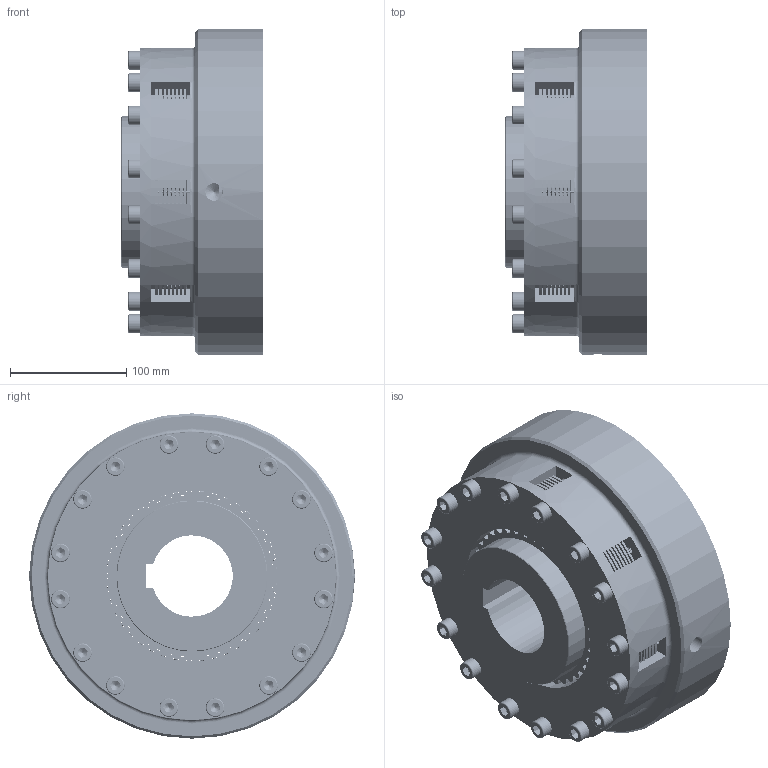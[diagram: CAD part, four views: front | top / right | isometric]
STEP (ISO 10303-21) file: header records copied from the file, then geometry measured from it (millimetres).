
FILE_DESCRIPTION(/* description */ (''),/* implementation_level */ '2;1');
FILE_NAME(/* name */ 'T:\INVENTOR\DISEGNI\03_Friz_Oleod_Pneum_Cil_Stat\03_40 FPL-N\03_40_010_01 FPL_N10\B\03_40_010_01 FPL-N10B-F70@STEP.stp',/* time_stamp */ '2020-02-26T12:07:59+01:00',/* author */ ('w.sartori'),/* organization */ (''),/* preprocessor_version */ 'ST-DEVELOPER v16.13',/* originating_system */ 'Autodesk Inventor 2018',/* authorisation */ '');
FILE_SCHEMA (('AUTOMOTIVE_DESIGN { 1 0 10303 214 3 1 1 }'));
Products named in the file (1): 03_40_010_01 FPL-N10B_Substitute_1
Bounding box: 122 x 280 x 280 mm (x, y, z)
Volume: 4237074.8 mm3; surface area: 579952.3 mm2
Topology: 9 solids, 9 shells, 5718 faces, 18294 edges, 11581 vertices
Faces by surface type: plane 3415, cylinder 1682, bspline 424, torus 115, cone 82
Full cylindrical faces by diameter (mm): 2 x8, 3 x8, 6 x8, 6.647 x1, 8.376 x12, 14.95 x1, 15.5 x24, 16 x16, 130 x1, 148.5 x8, 150 x2, 170 x1, 190 x2, 214 x7, 216 x1, 248 x2, 250 x2, 280 x1
Entity records: 272279 total; most frequent: CARTESIAN_POINT 101911, ORIENTED_EDGE 36030, DIRECTION 33704, EDGE_CURVE 18007, VERTEX_POINT 11499, LINE 11248, VECTOR 11248, AXIS2_PLACEMENT_3D 11228
